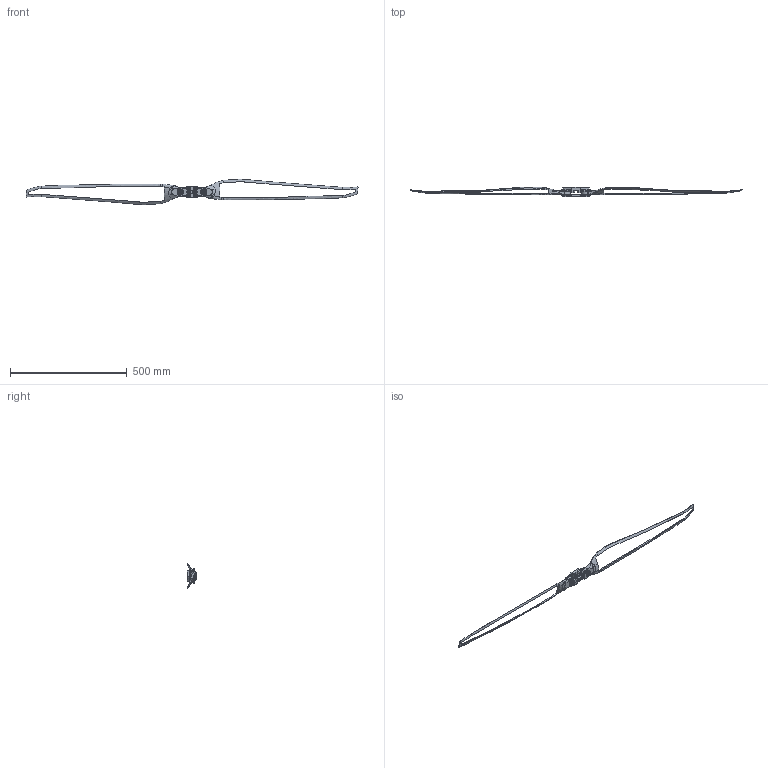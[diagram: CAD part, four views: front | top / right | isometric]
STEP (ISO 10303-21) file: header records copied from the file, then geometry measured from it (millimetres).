
FILE_DESCRIPTION (( 'STEP AP203' ), '1' );
FILE_NAME ('56渡蔑標蚾饜.STEP', '2025-02-11T05:38:00', ( '' ), ( '' ), 'SwSTEP 2.0', 'SolidWorks 2022', '' );
FILE_SCHEMA (( 'CONFIG_CONTROL_DESIGN' ));
Length unit declared in the file: millimetre
Products named in the file (6): 56寸桨夹装配; 上板56; 56寸桨夹钢轴; T56x20-V1.1; 56寸桨夹下板; 垫片56
Assembly tree (10 placements, depth 2):
  56寸桨夹装配
    56寸桨夹下板
    56寸桨夹钢轴  x2
    垫片56  x4
    上板56
    T56x20-V1.1  x2
Bounding box: 1423.49 x 42.59 x 108.44 mm (x, y, z)
Volume: 266629.8 mm3; surface area: 131984.3 mm2
Topology: 10 solids, 10 shells, 728 faces, 2186 edges, 1495 vertices
Faces by surface type: cylinder 272, plane 263, bspline 130, torus 37, cone 26
Entity records: 42052 total; most frequent: CARTESIAN_POINT 28189, ORIENTED_EDGE 2924, DIRECTION 2561, EDGE_CURVE 1462, VERTEX_POINT 984, AXIS2_PLACEMENT_3D 963, VECTOR 635, LINE 635
